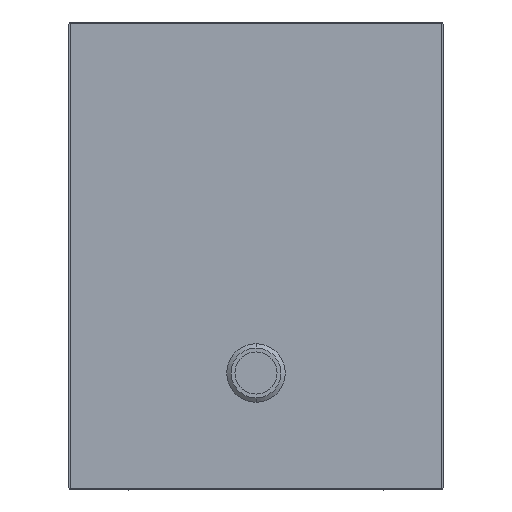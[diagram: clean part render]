
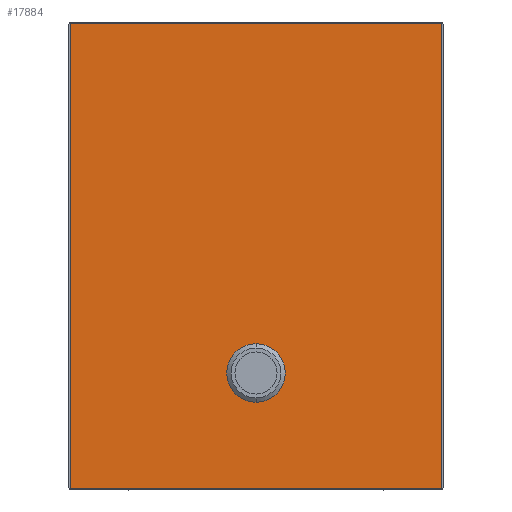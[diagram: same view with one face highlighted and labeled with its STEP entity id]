
A CAD part, front view. The second image highlights one B-rep face of the part: STEP entity #17884.
In plain terms, the highlighted planar face has unit normal (0, -1, 0).
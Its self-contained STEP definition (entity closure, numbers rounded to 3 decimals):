
#17683=CARTESIAN_POINT('',(393.,-40.,743.));
#17684=DIRECTION('',(0.,-1.,0.));
#17685=DIRECTION('',(1.,0.,0.));
#17686=AXIS2_PLACEMENT_3D('',#17683,#17684,#17685);
#17688=DIRECTION('',(0.,0.,1.));
#17689=VECTOR('',#17688,986.);
#17690=CARTESIAN_POINT('',(397.1,-40.,-243.));
#17691=LINE('',#17690,#17689);
#17692=CARTESIAN_POINT('',(393.,-40.,-243.));
#17693=DIRECTION('',(0.,-1.,0.));
#17694=DIRECTION('',(0.,0.,-1.));
#17695=AXIS2_PLACEMENT_3D('',#17692,#17693,#17694);
#17697=DIRECTION('',(1.,0.,0.));
#17698=VECTOR('',#17697,786.);
#17699=CARTESIAN_POINT('',(-393.,-40.,-247.1));
#17700=LINE('',#17699,#17698);
#17701=CARTESIAN_POINT('',(-393.,-40.,-243.));
#17702=DIRECTION('',(0.,-1.,0.));
#17703=DIRECTION('',(-1.,0.,0.));
#17704=AXIS2_PLACEMENT_3D('',#17701,#17702,#17703);
#17706=DIRECTION('',(0.,0.,-1.));
#17707=VECTOR('',#17706,986.);
#17708=CARTESIAN_POINT('',(-397.1,-40.,743.));
#17709=LINE('',#17708,#17707);
#17710=CARTESIAN_POINT('',(-393.,-40.,743.));
#17711=DIRECTION('',(0.,-1.,0.));
#17712=DIRECTION('',(0.,0.,1.));
#17713=AXIS2_PLACEMENT_3D('',#17710,#17711,#17712);
#17715=DIRECTION('',(-1.,0.,0.));
#17716=VECTOR('',#17715,786.);
#17717=CARTESIAN_POINT('',(393.,-40.,747.1));
#17718=LINE('',#17717,#17716);
#17719=CARTESIAN_POINT('',(0.,-40.,0.));
#17720=DIRECTION('',(0.,-1.,0.));
#17721=DIRECTION('',(0.,0.,1.));
#17722=AXIS2_PLACEMENT_3D('',#17719,#17720,#17721);
#17724=CARTESIAN_POINT('',(0.,-40.,0.));
#17725=DIRECTION('',(0.,-1.,0.));
#17726=DIRECTION('',(0.,0.,-1.));
#17727=AXIS2_PLACEMENT_3D('',#17724,#17725,#17726);
#17815=CARTESIAN_POINT('',(397.1,-40.,743.));
#17816=CARTESIAN_POINT('',(393.,-40.,747.1));
#17817=VERTEX_POINT('',#17815);
#17818=VERTEX_POINT('',#17816);
#17819=CARTESIAN_POINT('',(-393.,-40.,747.1));
#17820=VERTEX_POINT('',#17819);
#17821=CARTESIAN_POINT('',(-397.1,-40.,743.));
#17822=VERTEX_POINT('',#17821);
#17823=CARTESIAN_POINT('',(-397.1,-40.,-243.));
#17824=VERTEX_POINT('',#17823);
#17825=CARTESIAN_POINT('',(-393.,-40.,-247.1));
#17826=VERTEX_POINT('',#17825);
#17827=CARTESIAN_POINT('',(393.,-40.,-247.1));
#17828=VERTEX_POINT('',#17827);
#17829=CARTESIAN_POINT('',(397.1,-40.,-243.));
#17830=VERTEX_POINT('',#17829);
#17847=CARTESIAN_POINT('',(0.,-40.,62.531));
#17848=CARTESIAN_POINT('',(0.,-40.,-62.531));
#17849=VERTEX_POINT('',#17847);
#17850=VERTEX_POINT('',#17848);
#17855=CARTESIAN_POINT('',(0.,-40.,0.));
#17856=DIRECTION('',(0.,-1.,0.));
#17857=DIRECTION('',(0.,0.,-1.));
#17858=AXIS2_PLACEMENT_3D('',#17855,#17856,#17857);
#17859=PLANE('',#17858);
#17861=ORIENTED_EDGE('',*,*,#17860,.F.);
#17863=ORIENTED_EDGE('',*,*,#17862,.F.);
#17865=ORIENTED_EDGE('',*,*,#17864,.F.);
#17867=ORIENTED_EDGE('',*,*,#17866,.F.);
#17869=ORIENTED_EDGE('',*,*,#17868,.F.);
#17871=ORIENTED_EDGE('',*,*,#17870,.F.);
#17873=ORIENTED_EDGE('',*,*,#17872,.F.);
#17875=ORIENTED_EDGE('',*,*,#17874,.F.);
#17876=EDGE_LOOP('',(#17861,#17863,#17865,#17867,#17869,#17871,#17873,#17875));
#17877=FACE_OUTER_BOUND('',#17876,.F.);
#17879=ORIENTED_EDGE('',*,*,#17878,.T.);
#17881=ORIENTED_EDGE('',*,*,#17880,.T.);
#17882=EDGE_LOOP('',(#17879,#17881));
#17883=FACE_BOUND('',#17882,.F.);
#17884=ADVANCED_FACE('',(#17877,#17883),#17859,.T.);
#17687=CIRCLE('',#17686,4.1);
#17696=CIRCLE('',#17695,4.1);
#17705=CIRCLE('',#17704,4.1);
#17714=CIRCLE('',#17713,4.1);
#17723=CIRCLE('',#17722,62.531);
#17728=CIRCLE('',#17727,62.531);
#17860=EDGE_CURVE('',#17817,#17818,#17687,.T.);
#17862=EDGE_CURVE('',#17830,#17817,#17691,.T.);
#17864=EDGE_CURVE('',#17828,#17830,#17696,.T.);
#17866=EDGE_CURVE('',#17826,#17828,#17700,.T.);
#17868=EDGE_CURVE('',#17824,#17826,#17705,.T.);
#17870=EDGE_CURVE('',#17822,#17824,#17709,.T.);
#17872=EDGE_CURVE('',#17820,#17822,#17714,.T.);
#17874=EDGE_CURVE('',#17818,#17820,#17718,.T.);
#17878=EDGE_CURVE('',#17849,#17850,#17723,.T.);
#17880=EDGE_CURVE('',#17850,#17849,#17728,.T.);
